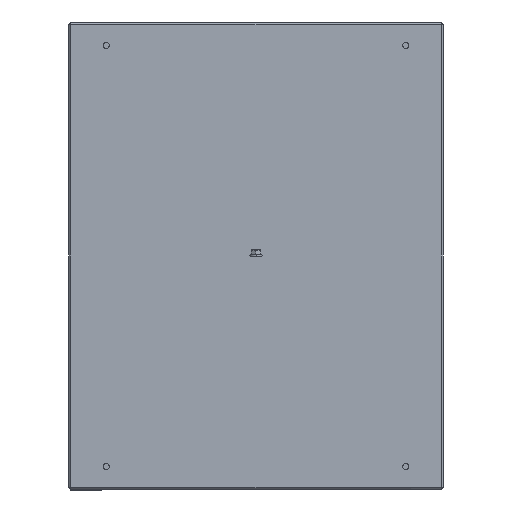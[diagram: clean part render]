
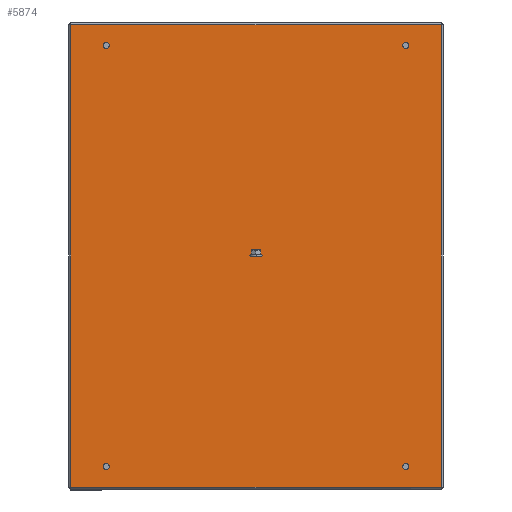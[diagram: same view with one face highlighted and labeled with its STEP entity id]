
A CAD part, front view. The second image highlights one B-rep face of the part: STEP entity #5874.
In plain terms, the highlighted planar face has unit normal (0, -1, 0).
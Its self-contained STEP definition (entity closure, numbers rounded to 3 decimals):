
#71 = CARTESIAN_POINT ( 'NONE',  ( 156.75, 0., 225. ) ) ;
#312 = CARTESIAN_POINT ( 'NONE',  ( 160., 0., 225. ) ) ;
#554 = CIRCLE ( 'NONE', #3822, 3.25 ) ;
#584 = CARTESIAN_POINT ( 'NONE',  ( -160., 0., 225. ) ) ;
#764 = AXIS2_PLACEMENT_3D ( 'NONE', #8503, #3113, #5317 ) ;
#836 = VERTEX_POINT ( 'NONE', #9803 ) ;
#864 = DIRECTION ( 'NONE',  ( 0., 1., 0. ) ) ;
#910 = CARTESIAN_POINT ( 'NONE',  ( 160., 0., 225. ) ) ;
#972 = ORIENTED_EDGE ( 'NONE', *, *, #8591, .T. ) ;
#978 = EDGE_CURVE ( 'NONE', #10645, #8437, #554, .T. ) ;
#990 = VECTOR ( 'NONE', #6713, 1000. ) ;
#1012 = VERTEX_POINT ( 'NONE', #3579 ) ;
#1084 = ORIENTED_EDGE ( 'NONE', *, *, #9108, .T. ) ;
#1340 = DIRECTION ( 'NONE',  ( 0., 0., 1. ) ) ;
#1393 = ORIENTED_EDGE ( 'NONE', *, *, #12175, .T. ) ;
#1569 = CIRCLE ( 'NONE', #764, 3.25 ) ;
#1593 = CARTESIAN_POINT ( 'NONE',  ( 160., 0., -225. ) ) ;
#1632 = VERTEX_POINT ( 'NONE', #5667 ) ;
#1680 = LINE ( 'NONE', #2398, #12449 ) ;
#1823 = FACE_BOUND ( 'NONE', #7885, .T. ) ;
#1944 = ORIENTED_EDGE ( 'NONE', *, *, #11691, .F. ) ;
#1961 = CARTESIAN_POINT ( 'NONE',  ( -160., 0., -225. ) ) ;
#2029 = DIRECTION ( 'NONE',  ( 0., 0., 1. ) ) ;
#2101 = DIRECTION ( 'NONE',  ( 1., 0., 0. ) ) ;
#2398 = CARTESIAN_POINT ( 'NONE',  ( 197.8, 0., -246.8 ) ) ;
#2576 = VERTEX_POINT ( 'NONE', #9133 ) ;
#2625 = CARTESIAN_POINT ( 'NONE',  ( 163.25, 0., 225. ) ) ;
#2702 = DIRECTION ( 'NONE',  ( 0., 1., 0. ) ) ;
#2730 = CIRCLE ( 'NONE', #3338, 3.25 ) ;
#2807 = VERTEX_POINT ( 'NONE', #10895 ) ;
#3113 = DIRECTION ( 'NONE',  ( 0., 1., 0. ) ) ;
#3156 = CARTESIAN_POINT ( 'NONE',  ( -163.25, 0., 225. ) ) ;
#3320 = VERTEX_POINT ( 'NONE', #5240 ) ;
#3338 = AXIS2_PLACEMENT_3D ( 'NONE', #1593, #9921, #12031 ) ;
#3499 = FACE_BOUND ( 'NONE', #7563, .T. ) ;
#3522 = EDGE_LOOP ( 'NONE', ( #13875, #11900 ) ) ;
#3568 = EDGE_CURVE ( 'NONE', #3320, #4656, #3898, .T. ) ;
#3579 = CARTESIAN_POINT ( 'NONE',  ( -163.25, 0., -225. ) ) ;
#3822 = AXIS2_PLACEMENT_3D ( 'NONE', #312, #5791, #7943 ) ;
#3849 = ORIENTED_EDGE ( 'NONE', *, *, #7395, .T. ) ;
#3898 = CIRCLE ( 'NONE', #12737, 3.25 ) ;
#4046 = VERTEX_POINT ( 'NONE', #9069 ) ;
#4074 = AXIS2_PLACEMENT_3D ( 'NONE', #11349, #12377, #4862 ) ;
#4152 = LINE ( 'NONE', #13190, #6853 ) ;
#4332 = FACE_OUTER_BOUND ( 'NONE', #6256, .T. ) ;
#4432 = EDGE_CURVE ( 'NONE', #4540, #2807, #1680, .T. ) ;
#4540 = VERTEX_POINT ( 'NONE', #7876 ) ;
#4543 = CARTESIAN_POINT ( 'NONE',  ( -197.8, 0., -246.8 ) ) ;
#4623 = DIRECTION ( 'NONE',  ( 1., 0., 0. ) ) ;
#4656 = VERTEX_POINT ( 'NONE', #3156 ) ;
#4680 = FACE_BOUND ( 'NONE', #5794, .T. ) ;
#4720 = CARTESIAN_POINT ( 'NONE',  ( -160., 0., 225. ) ) ;
#4862 = DIRECTION ( 'NONE',  ( -1., 0., 0. ) ) ;
#5240 = CARTESIAN_POINT ( 'NONE',  ( -156.75, 0., 225. ) ) ;
#5317 = DIRECTION ( 'NONE',  ( -1., 0., 0. ) ) ;
#5361 = EDGE_CURVE ( 'NONE', #2807, #4046, #4152, .T. ) ;
#5558 = LINE ( 'NONE', #12703, #6395 ) ;
#5667 = CARTESIAN_POINT ( 'NONE',  ( -197.8, 0., -246.8 ) ) ;
#5791 = DIRECTION ( 'NONE',  ( 0., 1., 0. ) ) ;
#5794 = EDGE_LOOP ( 'NONE', ( #11767, #11295 ) ) ;
#5874 = ADVANCED_FACE ( 'NONE', ( #4332, #1823, #4680, #6194, #3499 ), #11205, .T. ) ;
#6124 = CIRCLE ( 'NONE', #10574, 3.25 ) ;
#6194 = FACE_BOUND ( 'NONE', #3522, .T. ) ;
#6205 = CIRCLE ( 'NONE', #9913, 3.25 ) ;
#6256 = EDGE_LOOP ( 'NONE', ( #1393, #11599, #12205, #1944 ) ) ;
#6372 = CARTESIAN_POINT ( 'NONE',  ( -160., 0., -225. ) ) ;
#6395 = VECTOR ( 'NONE', #2029, 1000. ) ;
#6713 = DIRECTION ( 'NONE',  ( 1., 0., 0. ) ) ;
#6831 = DIRECTION ( 'NONE',  ( 0., 1., 0. ) ) ;
#6853 = VECTOR ( 'NONE', #8736, 1000. ) ;
#7172 = EDGE_CURVE ( 'NONE', #4656, #3320, #6124, .T. ) ;
#7395 = EDGE_CURVE ( 'NONE', #11783, #2576, #1569, .T. ) ;
#7449 = DIRECTION ( 'NONE',  ( 0., 1., 0. ) ) ;
#7563 = EDGE_LOOP ( 'NONE', ( #3849, #7853 ) ) ;
#7853 = ORIENTED_EDGE ( 'NONE', *, *, #13800, .T. ) ;
#7876 = CARTESIAN_POINT ( 'NONE',  ( 197.8, 0., -246.8 ) ) ;
#7885 = EDGE_LOOP ( 'NONE', ( #972, #1084 ) ) ;
#7943 = DIRECTION ( 'NONE',  ( -1., 0., 0. ) ) ;
#8437 = VERTEX_POINT ( 'NONE', #2625 ) ;
#8503 = CARTESIAN_POINT ( 'NONE',  ( 160., 0., -225. ) ) ;
#8591 = EDGE_CURVE ( 'NONE', #836, #1012, #12973, .T. ) ;
#8736 = DIRECTION ( 'NONE',  ( -1., 0., 0. ) ) ;
#9069 = CARTESIAN_POINT ( 'NONE',  ( -197.8, 0., 246.8 ) ) ;
#9088 = DIRECTION ( 'NONE',  ( 1., 0., 0. ) ) ;
#9108 = EDGE_CURVE ( 'NONE', #1012, #836, #13125, .T. ) ;
#9133 = CARTESIAN_POINT ( 'NONE',  ( 163.25, 0., -225. ) ) ;
#9181 = EDGE_CURVE ( 'NONE', #8437, #10645, #6205, .T. ) ;
#9803 = CARTESIAN_POINT ( 'NONE',  ( -156.75, 0., -225. ) ) ;
#9913 = AXIS2_PLACEMENT_3D ( 'NONE', #910, #864, #13770 ) ;
#9921 = DIRECTION ( 'NONE',  ( 0., 1., 0. ) ) ;
#10531 = AXIS2_PLACEMENT_3D ( 'NONE', #6372, #7449, #2101 ) ;
#10574 = AXIS2_PLACEMENT_3D ( 'NONE', #584, #2702, #9088 ) ;
#10589 = DIRECTION ( 'NONE',  ( 0., 1., 0. ) ) ;
#10645 = VERTEX_POINT ( 'NONE', #71 ) ;
#10895 = CARTESIAN_POINT ( 'NONE',  ( 197.8, 0., 246.8 ) ) ;
#11164 = AXIS2_PLACEMENT_3D ( 'NONE', #1961, #10589, #13809 ) ;
#11205 = PLANE ( 'NONE',  #4074 ) ;
#11295 = ORIENTED_EDGE ( 'NONE', *, *, #7172, .T. ) ;
#11349 = CARTESIAN_POINT ( 'NONE',  ( -197.8, 0., -249. ) ) ;
#11599 = ORIENTED_EDGE ( 'NONE', *, *, #4432, .T. ) ;
#11691 = EDGE_CURVE ( 'NONE', #1632, #4046, #5558, .T. ) ;
#11741 = LINE ( 'NONE', #4543, #990 ) ;
#11767 = ORIENTED_EDGE ( 'NONE', *, *, #3568, .T. ) ;
#11783 = VERTEX_POINT ( 'NONE', #12892 ) ;
#11900 = ORIENTED_EDGE ( 'NONE', *, *, #9181, .T. ) ;
#12031 = DIRECTION ( 'NONE',  ( -1., 0., 0. ) ) ;
#12175 = EDGE_CURVE ( 'NONE', #1632, #4540, #11741, .T. ) ;
#12205 = ORIENTED_EDGE ( 'NONE', *, *, #5361, .T. ) ;
#12377 = DIRECTION ( 'NONE',  ( 0., -1., 0. ) ) ;
#12449 = VECTOR ( 'NONE', #1340, 1000. ) ;
#12703 = CARTESIAN_POINT ( 'NONE',  ( -197.8, 0., -246.8 ) ) ;
#12737 = AXIS2_PLACEMENT_3D ( 'NONE', #4720, #6831, #4623 ) ;
#12892 = CARTESIAN_POINT ( 'NONE',  ( 156.75, 0., -225. ) ) ;
#12973 = CIRCLE ( 'NONE', #11164, 3.25 ) ;
#13125 = CIRCLE ( 'NONE', #10531, 3.25 ) ;
#13190 = CARTESIAN_POINT ( 'NONE',  ( 197.8, 0., 246.8 ) ) ;
#13770 = DIRECTION ( 'NONE',  ( -1., 0., 0. ) ) ;
#13800 = EDGE_CURVE ( 'NONE', #2576, #11783, #2730, .T. ) ;
#13809 = DIRECTION ( 'NONE',  ( 1., 0., 0. ) ) ;
#13875 = ORIENTED_EDGE ( 'NONE', *, *, #978, .T. ) ;
